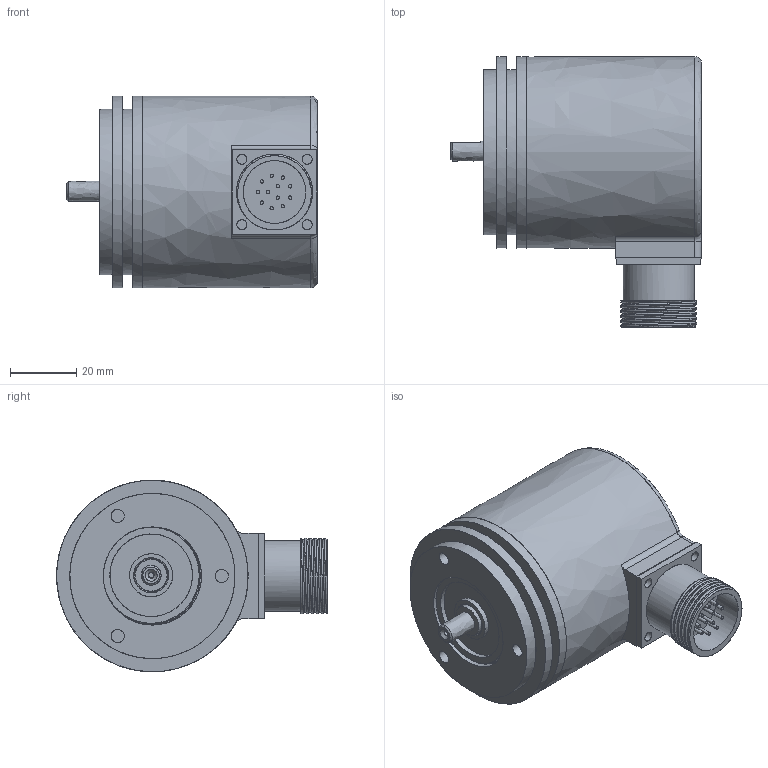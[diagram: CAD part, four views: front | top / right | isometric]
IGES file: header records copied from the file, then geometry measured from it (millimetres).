
Global section: file name: H:\lem\3DCAD_EI 1058_S06x10y_M23R.igs; native system: NX V11.0; preprocessor: SIEMENS PLM Software NX 11.0; date: 20200716.105344; units: millimetre
Bounding box: 76 x 82 x 58 mm (x, y, z)
Surface area: 23477.4 mm2 (no closed solid volume)
Topology: 0 solids, 0 shells, 112 faces, 1041 edges, 1031 vertices
Faces by surface type: bspline 112
